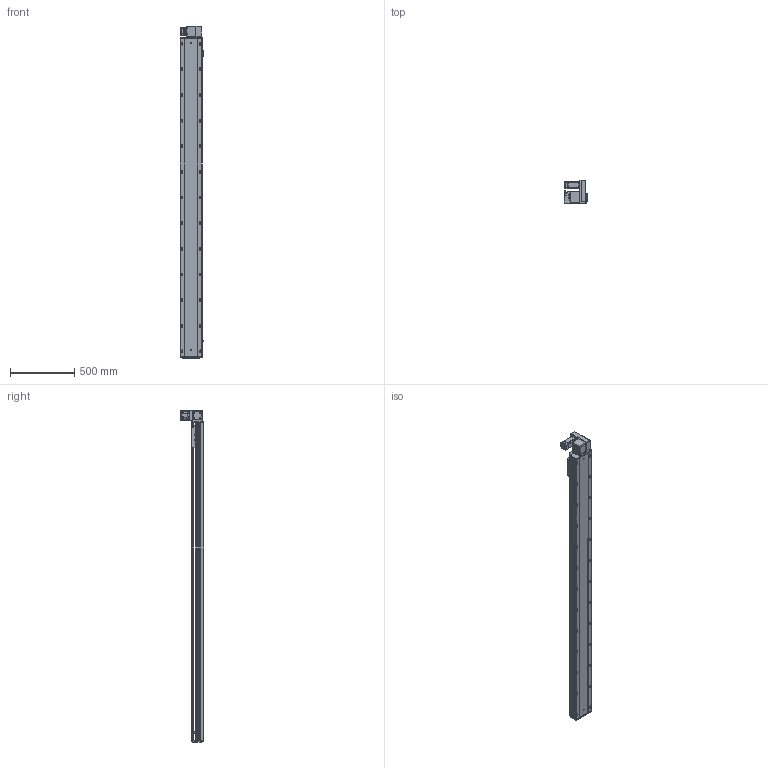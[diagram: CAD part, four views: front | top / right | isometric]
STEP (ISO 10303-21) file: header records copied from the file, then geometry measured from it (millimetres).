
FILE_DESCRIPTION (( 'STEP AP203' ), '1' );
FILE_NAME ('RY170-T-300-UR-P400W.SLDASM_2200.step', '2021-03-01T09:29:24', ( '盈信电脑' ), ( '东莞市道滘镇水果街19号' ), 'SwSTEP 2.0', 'SolidWorks 2012', '' );
FILE_SCHEMA (( 'CONFIG_CONTROL_DESIGN' ));
Products named in the file (18): RY170-T-300-UR-P400W.SLDASM_2200; 滅袉蝶18-10; RY170-T蹟翐M4; 15; RY170-T肮祭謫裔啣; RY170-T肮祭湍揤踡輸2; RY120-T主同步轮轴承压盖; RY170-T肮祭湍揤踡輸1; RY170同步轮电机安装板(400W); RY170翋肮祭謫釱; RY170肮祭謫萇儂欶; RY170外置感应片(200共用）; RY170肮祭謫ヶ裔啣; 覜茼ん672; RY170-T-300肮祭謫倰第菁釱-DR_2200; RY170-T-300肮祭謫倰第裔啣-DR_2200; RY170綴裔啣; RY170肮祭湍臏賑輸
Assembly tree (22 placements, depth 2):
  RY170-T-300-UR-P400W.SLDASM_2200
    RY170-T-300肮祭謫倰第菁釱-DR_2200
    RY170肮祭湍臏賑輸
    RY170-T-300肮祭謫倰第裔啣-DR_2200
    RY170綴裔啣
    覜茼ん672  x3
    RY170外置感应片(200共用）
    RY170肮祭謫ヶ裔啣
    RY170翋肮祭謫釱
    RY170同步轮电机安装板(400W)
    RY170肮祭謫萇儂欶
    RY170-T肮祭湍揤踡輸1  x2
    RY170-T肮祭湍揤踡輸2  x2
    RY120-T主同步轮轴承压盖
    RY170-T肮祭謫裔啣
    RY170-T蹟翐M4
    滅袉蝶18-10  x2
    15
Bounding box: 183.7 x 182 x 2588 mm (x, y, z)
Volume: 11918447.6 mm3; surface area: 4116228 mm2
Topology: 22 solids, 22 shells, 3072 faces, 8642 edges, 5503 vertices
Faces by surface type: cylinder 1450, plane 1272, cone 320, bspline 30
Entity records: 94064 total; most frequent: CARTESIAN_POINT 22060, ORIENTED_EDGE 14824, DIRECTION 14390, EDGE_CURVE 7412, AXIS2_PLACEMENT_3D 5123, VERTEX_POINT 4859, LINE 4144, VECTOR 4144
